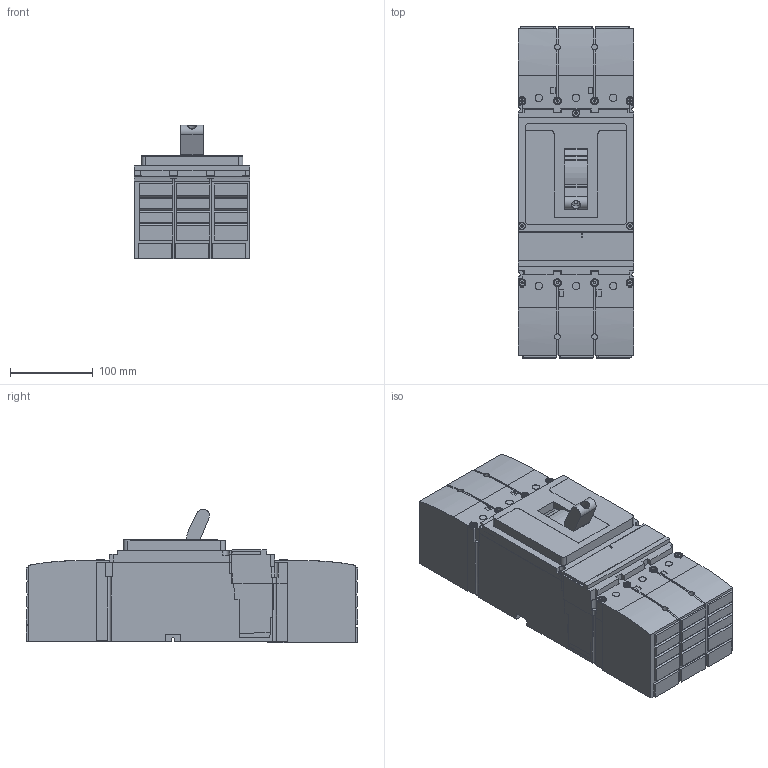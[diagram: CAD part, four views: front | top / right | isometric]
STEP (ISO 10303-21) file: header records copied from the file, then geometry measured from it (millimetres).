
FILE_DESCRIPTION((''),'2;1');
FILE_NAME('1676273409188_ASM','2023-02-13T13:00:33',('SESA540900'),('Schneider-Electric'),'CREO PARAMETRIC BY PTC INC, 2021284','CREO PARAMETRIC BY PTC INC, 2021284','');
FILE_SCHEMA(('AP242_MANAGED_MODEL_BASED_3D_ENGINEERING_MIM_LF { 1 0 10303 442 1 1 4 }'));
Products named in the file (12): EMPTYNODE_1676273409319_ASM; C63L3-BASEFRAME; C63L3-BASEFRAME-3D_ASM; C63L3-FRONTCOVER; C63L3-FRONTCOVER-3D_ASM; C40K32D250-TRIPUNIT; C4032D250-3D-TRIPUNIT_ASM; TERMINAL-SHIELD-3P; TERMINAL-SHEILD-3P-BTM-3D_ASM; TERMINAL-SHEILD-3P-TOP; TERMINAL-SHEILD-3P-TOP-3D_ASM; 1676273409188_ASM
Assembly tree (11 placements, depth 3):
  1676273409188_ASM
    EMPTYNODE_1676273409319_ASM
    C63L3-BASEFRAME-3D_ASM
      C63L3-BASEFRAME
    C63L3-FRONTCOVER-3D_ASM
      C63L3-FRONTCOVER
    C4032D250-3D-TRIPUNIT_ASM
      C40K32D250-TRIPUNIT
    TERMINAL-SHEILD-3P-BTM-3D_ASM
      TERMINAL-SHIELD-3P
    TERMINAL-SHEILD-3P-TOP-3D_ASM
      TERMINAL-SHEILD-3P-TOP
Bounding box: 139.7 x 400.8 x 161.19 mm (x, y, z)
Volume: 3447356.3 mm3; surface area: 740500.6 mm2
Topology: 7 solids, 7 shells, 2269 faces, 6303 edges, 4170 vertices
Faces by surface type: plane 1880, cylinder 361, extrusion 22, cone 6
Entity records: 95953 total; most frequent: CARTESIAN_POINT 13963, ORIENTED_EDGE 12606, DIRECTION 11590, PRESENTATION_STYLE_ASSIGNMENT 6609, STYLED_ITEM 6312, CURVE_STYLE 6305, EDGE_CURVE 6303, VECTOR 5410
